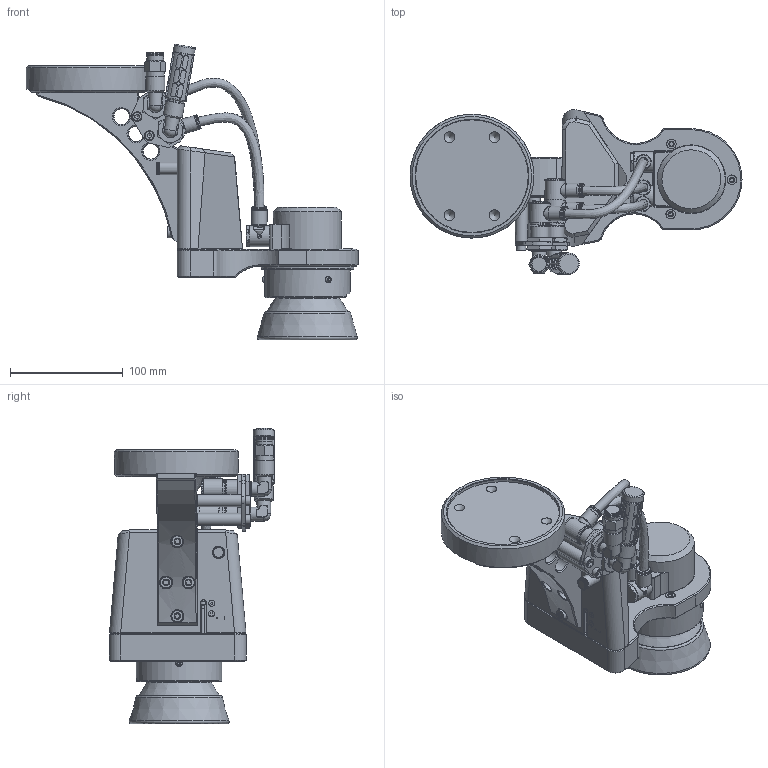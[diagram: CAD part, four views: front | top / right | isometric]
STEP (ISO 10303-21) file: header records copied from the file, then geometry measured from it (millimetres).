
FILE_DESCRIPTION(/* description */ (''),/* implementation_level */ '2;1');
FILE_NAME(/* name */ '',/* time_stamp */ '2026-06-20T14:08:53+02:00',/* author */ ('karan'),/* organization */ (''),/* preprocessor_version */ 'ST-DEVELOPER v20',/* originating_system */ 'Autodesk Inventor 2024',/* authorisation */ '');
FILE_SCHEMA (('AUTOMOTIVE_DESIGN { 1 0 10303 214 3 1 1 }'));
Products named in the file (1): Polierwerkzeug_PRP-377_Упростить_
1
Bounding box: 294.88 x 146.6 x 262.48 mm (x, y, z)
Surface area: 231865.8 mm2
Topology: 30 solids, 103 shells, 1590 faces, 4205 edges, 2767 vertices
Faces by surface type: plane 691, cylinder 411, cone 253, bspline 196, torus 37, sphere 2
Full cylindrical faces by diameter (mm): 2.93 x1, 3 x3, 3.011 x4, 3.5 x1, 4 x1, 5.5 x1, 5.7 x3, 6 x3, 8.5 x5, 9 x2, 9.2 x3, 9.5 x1, 10 x4, 10.5 x3, 11 x4, 11.5 x3, 12 x3, 12.5 x4, 13 x9, 13.2 x5, 13.3 x2, 13.388 x2, 13.5 x7, 13.6 x1, 14 x3, 15 x5, 15.1 x1, 16 x1, 16.5 x2, 17 x4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
Entity records: 57790 total; most frequent: CARTESIAN_POINT 19046, ORIENTED_EDGE 7873, DIRECTION 7097, EDGE_CURVE 4196, VERTEX_POINT 2767, AXIS2_PLACEMENT_3D 2545, LINE 2007, VECTOR 2007
